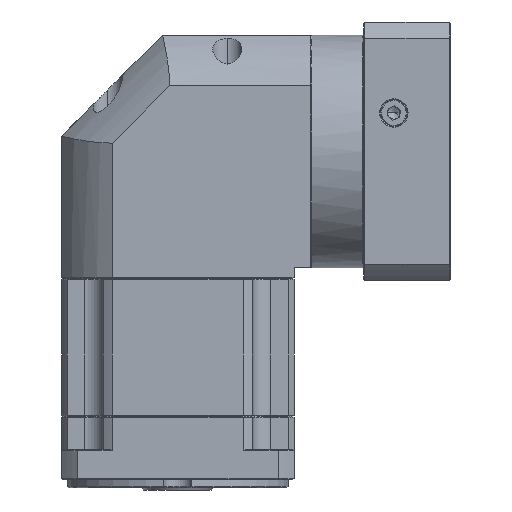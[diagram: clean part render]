
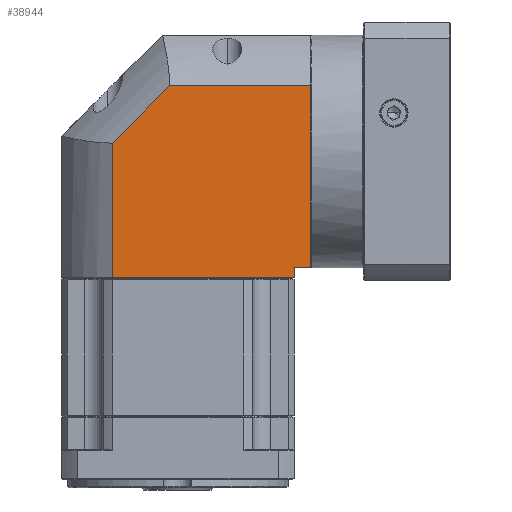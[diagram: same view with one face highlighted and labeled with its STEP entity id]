
A CAD part, front view. The second image highlights one B-rep face of the part: STEP entity #38944.
In plain terms, the highlighted planar face has unit normal (0, -1, 0).
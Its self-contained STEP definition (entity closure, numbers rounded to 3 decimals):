
#481 = EDGE_CURVE ( 'NONE', #74709, #31911, #95531, .T. ) ;
#1685 = CARTESIAN_POINT ( 'NONE',  ( 103.149, 0.231, -61.365 ) ) ;
#2779 = CARTESIAN_POINT ( 'NONE',  ( -20.251, 0.231, -66.365 ) ) ;
#3165 = LINE ( 'NONE', #126639, #57265 ) ;
#3532 = VERTEX_POINT ( 'NONE', #55574 ) ;
#4830 = AXIS2_PLACEMENT_3D ( 'NONE', #107675, #88059, #56464 ) ;
#6822 = LINE ( 'NONE', #25965, #51388 ) ;
#6856 = DIRECTION ( 'NONE',  ( 0.707, 0., 0.707 ) ) ;
#10295 = VECTOR ( 'NONE', #25656, 1000. ) ;
#10587 = CARTESIAN_POINT ( 'NONE',  ( -20.251, 0.231, 28.534 ) ) ;
#11204 = VERTEX_POINT ( 'NONE', #23002 ) ;
#13163 = VECTOR ( 'NONE', #88294, 1000. ) ;
#17268 = CARTESIAN_POINT ( 'NONE',  ( 94.749, 0.231, -72.865 ) ) ;
#20642 = CARTESIAN_POINT ( 'NONE',  ( 103.149, 0.231, -72.865 ) ) ;
#21614 = ORIENTED_EDGE ( 'NONE', *, *, #98386, .F. ) ;
#22308 = DIRECTION ( 'NONE',  ( -1., 0., 0. ) ) ;
#23002 = CARTESIAN_POINT ( 'NONE',  ( 4.849, 0.231, -66.365 ) ) ;
#24382 = CARTESIAN_POINT ( 'NONE',  ( 4.849, 0.231, 0.196 ) ) ;
#25656 = DIRECTION ( 'NONE',  ( 0., 0., -1. ) ) ;
#25965 = CARTESIAN_POINT ( 'NONE',  ( 4.849, 0.231, 0.196 ) ) ;
#28686 = DIRECTION ( 'NONE',  ( -1., 0., 0. ) ) ;
#30674 = EDGE_CURVE ( 'NONE', #11204, #56332, #3165, .T. ) ;
#31911 = VERTEX_POINT ( 'NONE', #117932 ) ;
#36778 = EDGE_CURVE ( 'NONE', #113469, #11204, #67404, .T. ) ;
#38944 = ADVANCED_FACE ( 'NONE', ( #95379 ), #127270, .F. ) ;
#42582 = ORIENTED_EDGE ( 'NONE', *, *, #30674, .F. ) ;
#43431 = DIRECTION ( 'NONE',  ( 0., 0., 1. ) ) ;
#45598 = ORIENTED_EDGE ( 'NONE', *, *, #118274, .F. ) ;
#51388 = VECTOR ( 'NONE', #6856, 1000. ) ;
#55574 = CARTESIAN_POINT ( 'NONE',  ( 33.188, 0.231, 28.534 ) ) ;
#56332 = VERTEX_POINT ( 'NONE', #24382 ) ;
#56464 = DIRECTION ( 'NONE',  ( 1., 0., 0. ) ) ;
#56500 = ORIENTED_EDGE ( 'NONE', *, *, #65709, .F. ) ;
#57265 = VECTOR ( 'NONE', #43431, 1000. ) ;
#65709 = EDGE_CURVE ( 'NONE', #130084, #74709, #78274, .T. ) ;
#67404 = LINE ( 'NONE', #2779, #119996 ) ;
#70169 = CARTESIAN_POINT ( 'NONE',  ( 94.749, 0.231, -66.365 ) ) ;
#73001 = LINE ( 'NONE', #10587, #76375 ) ;
#74709 = VERTEX_POINT ( 'NONE', #1685 ) ;
#76375 = VECTOR ( 'NONE', #110736, 1000. ) ;
#77841 = EDGE_CURVE ( 'NONE', #56332, #3532, #6822, .T. ) ;
#78274 = LINE ( 'NONE', #20642, #13163 ) ;
#82677 = VECTOR ( 'NONE', #28686, 1000. ) ;
#83541 = CARTESIAN_POINT ( 'NONE',  ( 103.149, 0.231, 28.534 ) ) ;
#88059 = DIRECTION ( 'NONE',  ( 0., 1., 0. ) ) ;
#88294 = DIRECTION ( 'NONE',  ( 0., 0., -1. ) ) ;
#92049 = ORIENTED_EDGE ( 'NONE', *, *, #36778, .F. ) ;
#95379 = FACE_OUTER_BOUND ( 'NONE', #100636, .T. ) ;
#95531 = LINE ( 'NONE', #99935, #82677 ) ;
#98386 = EDGE_CURVE ( 'NONE', #3532, #130084, #73001, .T. ) ;
#99935 = CARTESIAN_POINT ( 'NONE',  ( -20.251, 0.231, -61.365 ) ) ;
#100636 = EDGE_LOOP ( 'NONE', ( #45598, #119175, #56500, #21614, #129070, #42582, #92049 ) ) ;
#107675 = CARTESIAN_POINT ( 'NONE',  ( -20.251, 0.231, -72.865 ) ) ;
#110736 = DIRECTION ( 'NONE',  ( 1., 0., 0. ) ) ;
#113469 = VERTEX_POINT ( 'NONE', #70169 ) ;
#117932 = CARTESIAN_POINT ( 'NONE',  ( 94.749, 0.231, -61.365 ) ) ;
#118274 = EDGE_CURVE ( 'NONE', #31911, #113469, #128163, .T. ) ;
#119175 = ORIENTED_EDGE ( 'NONE', *, *, #481, .F. ) ;
#119996 = VECTOR ( 'NONE', #22308, 1000. ) ;
#126639 = CARTESIAN_POINT ( 'NONE',  ( 4.849, 0.231, -72.865 ) ) ;
#127270 = PLANE ( 'NONE',  #4830 ) ;
#128163 = LINE ( 'NONE', #17268, #10295 ) ;
#129070 = ORIENTED_EDGE ( 'NONE', *, *, #77841, .F. ) ;
#130084 = VERTEX_POINT ( 'NONE', #83541 ) ;
